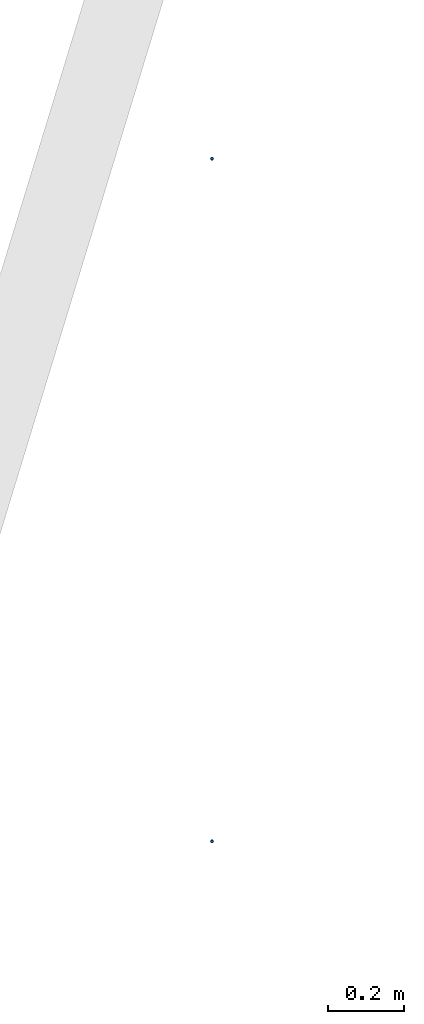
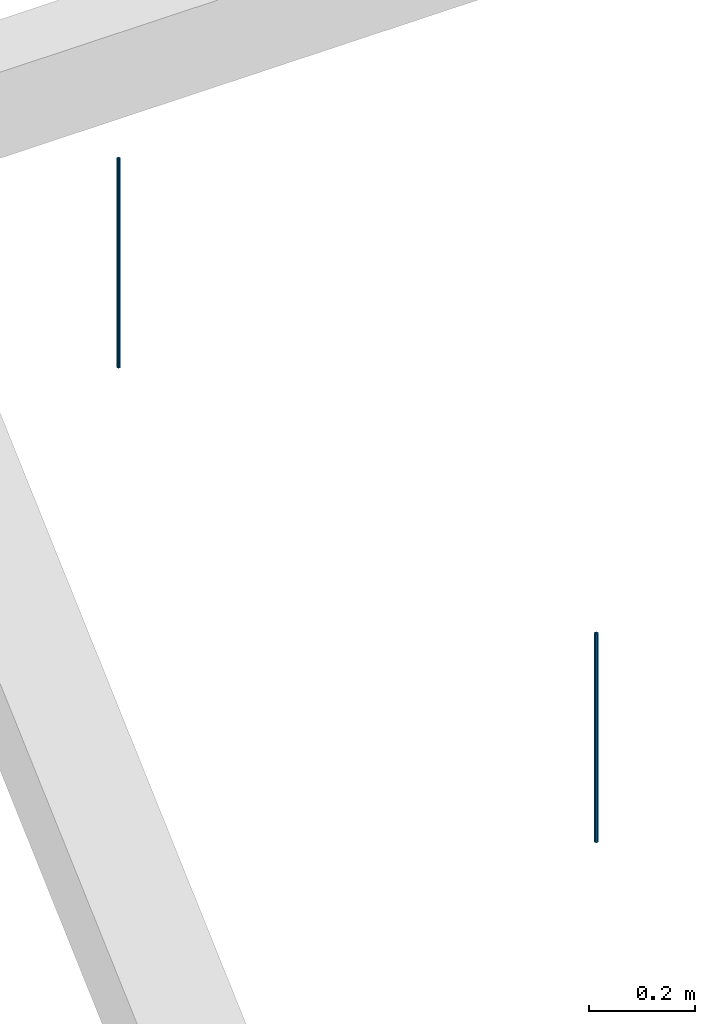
# One storey, part 8 of 23: 2 columns.
"""IFC2X3 building model written with IfcOpenShell, lengths in millimetres."""

import ifcopenshell
import ifcopenshell.guid

model = None  # the IFC model being written
_history = None  # IfcOwnerHistory: only IFC2X3 demands one
_inside = {}  # id of a spatial element -> (the spatial element, [elements in it])
_under = {}  # id of a project, library or spatial element -> (it, [spatial elements below it])
_declared = {}  # id of a project -> (the project, [libraries it declares])
_typed = {}  # id of a type object -> (the type object, [elements of that type])
_made_of = {}  # id of a material, layer set ... -> (it, [elements and type objects made of it])


def new_model(schema):
    """Start an empty IFC model of exactly this schema.

    Asked for "IFC4X3", IfcOpenShell would pick the latest addendum, in which some entities
    have other attributes; the version numbers below select the first issue.
    IFC2X3 requires an IfcOwnerHistory on every rooted entity: one is made here for all.
    """
    global model, _history
    if schema == "IFC4X3":
        model = ifcopenshell.file(schema_version=(4, 3, 0, 0))
    else:
        model = ifcopenshell.file(schema=schema)
    _inside.clear()
    _under.clear()
    _declared.clear()
    _typed.clear()
    _made_of.clear()
    _history = None
    if model.schema == "IFC2X3":
        org = make("IfcOrganization", Name="unknown")
        user = make(
            "IfcPersonAndOrganization",
            ThePerson=make("IfcPerson", FamilyName="unknown"),
            TheOrganization=org,
        )
        app = make(
            "IfcApplication",
            ApplicationDeveloper=org,
            Version="unknown",
            ApplicationFullName="unknown",
            ApplicationIdentifier="unknown",
        )
        _history = make(
            "IfcOwnerHistory",
            OwningUser=user,
            OwningApplication=app,
            ChangeAction="ADDED",
            CreationDate=0,
        )
    return model


def make(cls, **values):
    """One entity of the class cls with the attributes given. An attribute that is None is left unset."""
    return model.create_entity(
        cls, **{name: value for name, value in values.items() if value is not None}
    )


def entity(cls, *values):
    """Any entity or typed value of the class cls, its attributes in the order of the schema. None: left unset."""
    e = model.create_entity(cls)
    for i, value in enumerate(values):
        if value is not None:
            e[i] = value
    return e


def rooted(cls, **values):
    """An entity with a GlobalId (a new one), such as an element, a storey or a relation."""
    return make(cls, GlobalId=ifcopenshell.guid.new(), OwnerHistory=_history, **values)


def si_unit(unit_type, name, prefix=None):
    """IfcSIUnit, for example si_unit("LENGTHUNIT", "METRE", prefix="MILLI")."""
    return make("IfcSIUnit", UnitType=unit_type, Prefix=prefix, Name=name)


def converted_unit(unit_type, name, factor, base, dimensions=None, offset=None):
    """IfcConversionBasedUnit, such as the inch: factor (a typed value) times the base unit."""
    return make(
        "IfcConversionBasedUnit"
        if offset is None
        else "IfcConversionBasedUnitWithOffset",
        ConversionOffset=offset,
        Dimensions=None
        if dimensions is None
        else entity("IfcDimensionalExponents", *dimensions),
        UnitType=unit_type,
        Name=name,
        ConversionFactor=make(
            "IfcMeasureWithUnit", ValueComponent=factor, UnitComponent=base
        ),
    )


def derived_unit(unit_type, elements):
    """IfcDerivedUnit: a product of units, each with its exponent."""
    return make(
        "IfcDerivedUnit",
        Elements=[
            make("IfcDerivedUnitElement", Unit=unit, Exponent=power)
            for unit, power in elements
        ],
        UnitType=unit_type,
    )


def assignment(units):
    """IfcUnitAssignment: the units of a project."""
    return None if units is None else make("IfcUnitAssignment", Units=units)


def point(xyz):
    """IfcCartesianPoint."""
    return None if xyz is None else make("IfcCartesianPoint", Coordinates=xyz)


def direction(xyz):
    """IfcDirection."""
    return None if xyz is None else make("IfcDirection", DirectionRatios=xyz)


def frame(location, z_axis=None, x_axis=None):
    """IfcAxis2Placement3D, a coordinate frame: its origin and axes. An axis left out is left unset."""
    return make(
        "IfcAxis2Placement3D",
        Location=point(location),
        Axis=direction(z_axis),
        RefDirection=direction(x_axis),
    )


def origin_with_axes():
    """The frame at (0, 0, 0) with the z axis (0, 0, 1) and the x axis (1, 0, 0) written out."""
    return frame((0.0, 0.0, 0.0), z_axis=(0.0, 0.0, 1.0), x_axis=(1.0, 0.0, 0.0))


def place(relative_to, where):
    """IfcLocalPlacement: puts the frame where relative to a parent placement (None: the world)."""
    return make(
        "IfcLocalPlacement", PlacementRelTo=relative_to, RelativePlacement=where
    )


def context(
    kind, dimensions, precision=None, world=None, true_north=None, identifier=None
):
    """IfcGeometricRepresentationContext, for example the 3D "Model" context."""
    return make(
        "IfcGeometricRepresentationContext",
        ContextIdentifier=identifier,
        ContextType=kind,
        CoordinateSpaceDimension=dimensions,
        Precision=precision,
        WorldCoordinateSystem=world,
        TrueNorth=true_north,
    )


def subcontext(parent, identifier, kind, view, scale=None):
    """IfcGeometricRepresentationSubContext, for example "Body" below "Model"."""
    return make(
        "IfcGeometricRepresentationSubContext",
        ContextIdentifier=identifier,
        ContextType=kind,
        ParentContext=parent,
        TargetScale=scale,
        TargetView=view,
    )


def project(units=None, contexts=None):
    """IfcProject with its units and contexts."""
    return rooted(
        "IfcProject",
        Name="project",
        RepresentationContexts=contexts,
        UnitsInContext=assignment(units),
    )


def spatial(cls, under=None, at=None, **own):
    """A site, building, storey or space (cls), placed at a placement, below another one or the project."""
    s = rooted(cls, ObjectPlacement=at, **own)
    if under is not None:
        _under.setdefault(under.id(), (under, []))[1].append(s)
    return s


def faces_of(points, faces, orient=None, outer=None):
    """IfcFace entities. A face is a list of loops; a loop is a list of indices into points, from 0.

    orient and outer hold one flag for each loop. By default every Orientation is true, the
    first loop of a face is its IfcFaceOuterBound and the others are IfcFaceBound.
    """
    made = []
    for i, loops in enumerate(faces):
        bounds = []
        for j, loop in enumerate(loops):
            is_outer = j == 0 if outer is None else outer[i][j]
            bounds.append(
                make(
                    "IfcFaceOuterBound" if is_outer else "IfcFaceBound",
                    Bound=make("IfcPolyLoop", Polygon=[points[k] for k in loop]),
                    Orientation=True if orient is None else orient[i][j],
                )
            )
        made.append(make("IfcFace", Bounds=bounds))
    return made


def faceted_brep(points, faces, orient=None, outer=None, voids=None):
    """IfcFacetedBrep: a solid bounded by flat faces; with voids (closed shells), ...WithVoids."""
    shared = [point(p) for p in points]
    hull = make("IfcClosedShell", CfsFaces=faces_of(shared, faces, orient, outer))
    if voids is None:
        return make("IfcFacetedBrep", Outer=hull)
    return make(
        "IfcFacetedBrepWithVoids",
        Outer=hull,
        Voids=[
            make(cls, CfsFaces=faces_of(shared, fs, o, b)) for cls, fs, o, b in voids
        ],
    )


def shape(context_of_items, identifier, shape_type, items):
    """IfcShapeRepresentation: the items that make up one representation, for example the "Body"."""
    return make(
        "IfcShapeRepresentation",
        ContextOfItems=context_of_items,
        RepresentationIdentifier=identifier,
        RepresentationType=shape_type,
        Items=items,
    )


def material(Name=None, Category=None):
    """IfcMaterial."""
    return make("IfcMaterial", Name=Name, Category=Category)


def made_of(thing, what):
    """Note that an element or type object is made of a material, layer set ...; save() writes the relation."""
    if what is not None:
        _made_of.setdefault(what.id(), (what, []))[1].append(thing)
    return thing


def type_object(cls, material=None, **own):
    """A type object (cls), such as IfcWallType, which elements share."""
    return made_of(rooted(cls, **own), material)


def element(
    cls,
    number,
    at=None,
    inside=None,
    cuts=None,
    type_object=None,
    material=None,
    context=None,
    identifier="Body",
    shape_type=None,
    held_by="IfcProductDefinitionShape",
    body=None,
    shapes=None,
    **own,
):
    """One element of the class cls, such as IfcWall. Its Tag is "e" and its number.

    at: its placement. inside: the storey or other place that contains it. cuts: it is an
    opening in that element (IfcRelVoidsElement). A single representation is given by context,
    identifier, shape_type and body (its items); several are given by shapes. held_by: the class
    of the entity that holds the representations. save() writes the other relations.
    """
    e = rooted(cls, Tag="e%d" % number, ObjectPlacement=at, **own)
    if body is not None:
        shapes = [shape(context, identifier, shape_type, body)]
    if shapes is not None:
        e.Representation = make(held_by, Representations=shapes)
    if inside is not None:
        _inside.setdefault(inside.id(), (inside, []))[1].append(e)
    if cuts is not None:
        rooted(
            "IfcRelVoidsElement", RelatingBuildingElement=cuts, RelatedOpeningElement=e
        )
    if type_object is not None:
        _typed.setdefault(type_object.id(), (type_object, []))[1].append(e)
    return made_of(e, material)


def aggregate(whole, parts):
    """IfcRelAggregates: a whole, such as a stair, and the parts it consists of."""
    return rooted("IfcRelAggregates", RelatingObject=whole, RelatedObjects=parts)


def save(model, path):
    """Write the relations noted so far, then the file.

    IfcRelAggregates (storeys below a building ...), IfcRelContainedInSpatialStructure (elements
    in a storey), IfcRelDefinesByType, IfcRelAssociatesMaterial and IfcRelDeclares: one each for
    every whole, place, type object, material and project.
    """
    for whole, parts in _under.values():
        aggregate(whole, parts)
    for where, things in _inside.values():
        rooted(
            "IfcRelContainedInSpatialStructure",
            RelatedElements=things,
            RelatingStructure=where,
        )
    for kind, things in _typed.values():
        rooted("IfcRelDefinesByType", RelatedObjects=things, RelatingType=kind)
    for what, things in _made_of.values():
        rooted("IfcRelAssociatesMaterial", RelatedObjects=things, RelatingMaterial=what)
    for by, libraries in _declared.values():
        rooted("IfcRelDeclares", RelatingContext=by, RelatedDefinitions=libraries)
    model.write(path)


model = new_model("IFC2X3")

# Units and contexts
model_context = context("Model", 3, precision=0.01, world=frame((0.0, 4.29681676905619e-09, 0.0)), true_north=direction((4.01073788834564e-13, 1.0)))
plan_context = context("Plan", 3, precision=0.01, world=frame((0.0, 4.29681676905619e-09, 0.0)), true_north=direction((4.01073788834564e-13, 1.0)))
body_context = subcontext(model_context, "Body", "Model", "MODEL_VIEW")
ifc_project = project(units=[converted_unit("PLANEANGLEUNIT", "DEGREE", entity("IfcPositiveLengthMeasure", 0.0174532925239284), si_unit("PLANEANGLEUNIT", "RADIAN"), dimensions=[0, 0, 0, 0, 0, 0, 0]), si_unit("AREAUNIT", "SQUARE_METRE"), si_unit("LENGTHUNIT", "METRE", prefix="MILLI"), si_unit("MASSUNIT", "GRAM", prefix="KILO"), si_unit("POWERUNIT", "WATT"), si_unit("PRESSUREUNIT", "PASCAL", prefix="KILO"), si_unit("FORCEUNIT", "NEWTON", prefix="KILO"), si_unit("ELECTRICVOLTAGEUNIT", "VOLT"), si_unit("ELECTRICCURRENTUNIT", "AMPERE"), si_unit("THERMODYNAMICTEMPERATUREUNIT", "DEGREE_CELSIUS"), si_unit("TIMEUNIT", "SECOND"), si_unit("VOLUMEUNIT", "CUBIC_METRE"), derived_unit("LINEARVELOCITYUNIT", [(si_unit("LENGTHUNIT", "METRE"), 1), (si_unit("TIMEUNIT", "SECOND"), -1)]), derived_unit("VOLUMETRICFLOWRATEUNIT", [(si_unit("VOLUMEUNIT", "CUBIC_METRE"), 1), (si_unit("TIMEUNIT", "SECOND"), -1)]), derived_unit("THERMALTRANSMITTANCEUNIT", [(si_unit("POWERUNIT", "WATT"), 1), (si_unit("THERMODYNAMICTEMPERATUREUNIT", "KELVIN"), -1), (si_unit("AREAUNIT", "SQUARE_METRE"), -1)]), derived_unit("SOUNDPRESSUREUNIT", [(si_unit("PRESSUREUNIT", "PASCAL"), 1)])], contexts=[model_context, plan_context])

# Site, building, storey
site_placement = place(None, origin_with_axes())
site = spatial("IfcSite", under=ifc_project, at=site_placement, Name="ENGM", CompositionType="ELEMENT")
building_placement = place(site_placement, origin_with_axes())
building = spatial("IfcBuilding", under=site, at=building_placement, Name="TI", CompositionType="ELEMENT")
storey_placement = place(building_placement, frame((0.0, 0.0, 213700.0), z_axis=(0.0, 0.0, 1.0), x_axis=(1.0, 0.0, 0.0)))
storey = spatial("IfcBuildingStorey", under=building, at=storey_placement, Name="Nivå G - 2,0m", CompositionType="ELEMENT", Elevation=213700.0)

# Columns
ifc_material = material(Name="_NSW Stål")
column_type = type_object("IfcColumnType", Name="A241 - GRID-oppheng:A241 - GRID-oppheng - ø10 mm", PredefinedType="COLUMN", material=ifc_material)
column_1_placement = place(storey_placement, frame((585000.000000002, 577100.0, -213700.0), z_axis=(0.0, 0.0, 1.0), x_axis=(1.0, 0.0, 0.0)))
element("IfcColumn", 1, at=column_1_placement, inside=storey, type_object=column_type, Name="A241 - GRID-oppheng:A241 - GRID-oppheng - ø10 mm", ObjectType="A241 - GRID-oppheng:A241 - GRID-oppheng - ø10 mm", context=body_context, shape_type="Brep", body=[
    faceted_brep([(2.00000000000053, 2.95521980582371e-15, 214400.0), (1.96961550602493, -0.347296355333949, 214400.0), (1.96961550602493, -0.347296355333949, 213920.0), (2.00000000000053, 2.95521980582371e-15, 213920.0), (1.87938524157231, -0.684040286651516, 214400.0), (1.87938524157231, -0.684040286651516, 213920.0), (1.73205080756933, -1.00000000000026, 214400.0), (1.73205080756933, -1.00000000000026, 213920.0), (1.53208888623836, -1.28557521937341, 214400.0), (1.53208888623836, -1.28557521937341, 213920.0), (1.28557521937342, -1.53208888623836, 214400.0), (1.28557521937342, -1.53208888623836, 213920.0), (1.00000000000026, -1.73205080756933, 214400.0), (1.00000000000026, -1.73205080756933, 213920.0), (0.684040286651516, -1.87938524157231, 214400.0), (0.684040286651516, -1.87938524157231, 213920.0), (0.347296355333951, -1.96961550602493, 214400.0), (0.347296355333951, -1.96961550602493, 213920.0), (-2.38954857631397e-16, -2.00000000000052, 214400.0), (-2.38954857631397e-16, -2.00000000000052, 213920.0), (-0.347296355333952, -1.96961550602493, 214400.0), (-0.347296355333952, -1.96961550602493, 213920.0), (-0.684040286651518, -1.87938524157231, 214400.0), (-0.684040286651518, -1.87938524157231, 213920.0), (-1.00000000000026, -1.73205080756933, 214400.0), (-1.00000000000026, -1.73205080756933, 213920.0), (-1.28557521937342, -1.53208888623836, 214400.0), (-1.28557521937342, -1.53208888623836, 213920.0), (-1.53208888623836, -1.28557521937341, 214400.0), (-1.53208888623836, -1.28557521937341, 213920.0), (-1.73205080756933, -1.00000000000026, 214400.0), (-1.73205080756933, -1.00000000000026, 213920.0), (-1.87938524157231, -0.684040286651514, 214400.0), (-1.87938524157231, -0.684040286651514, 213920.0), (-1.96961550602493, -0.347296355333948, 214400.0), (-1.96961550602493, -0.347296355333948, 213920.0), (-2.00000000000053, 3.20014916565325e-15, 214400.0), (-2.00000000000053, 3.20014916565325e-15, 213920.0), (-1.96961550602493, 0.347296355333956, 214400.0), (-1.96961550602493, 0.347296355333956, 213920.0), (-1.87938524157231, 0.68404028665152, 214400.0), (-1.87938524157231, 0.68404028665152, 213920.0), (-1.73205080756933, 1.00000000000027, 214400.0), (-1.73205080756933, 1.00000000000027, 213920.0), (-1.53208888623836, 1.28557521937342, 214400.0), (-1.53208888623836, 1.28557521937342, 213920.0), (-1.28557521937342, 1.53208888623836, 214400.0), (-1.28557521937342, 1.53208888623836, 213920.0), (-1.00000000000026, 1.73205080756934, 214400.0), (-1.00000000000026, 1.73205080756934, 213920.0), (-0.684040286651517, 1.87938524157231, 214400.0), (-0.684040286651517, 1.87938524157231, 213920.0), (-0.347296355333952, 1.96961550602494, 214400.0), (-0.347296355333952, 1.96961550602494, 213920.0), (2.50903862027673e-16, 2.00000000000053, 214400.0), (2.50903862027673e-16, 2.00000000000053, 213920.0), (0.347296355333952, 1.96961550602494, 214400.0), (0.347296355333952, 1.96961550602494, 213920.0), (0.684040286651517, 1.87938524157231, 214400.0), (0.684040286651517, 1.87938524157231, 213920.0), (1.00000000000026, 1.73205080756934, 214400.0), (1.00000000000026, 1.73205080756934, 213920.0), (1.28557521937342, 1.53208888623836, 214400.0), (1.28557521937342, 1.53208888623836, 213920.0), (1.53208888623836, 1.28557521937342, 214400.0), (1.53208888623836, 1.28557521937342, 213920.0), (1.73205080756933, 1.00000000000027, 214400.0), (1.73205080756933, 1.00000000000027, 213920.0), (1.87938524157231, 0.68404028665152, 214400.0), (1.87938524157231, 0.68404028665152, 213920.0), (1.96961550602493, 0.347296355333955, 214400.0), (1.96961550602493, 0.347296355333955, 213920.0), (3.93923101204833, -0.694592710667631, 214400.0), (3.99999999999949, 2.95521980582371e-15, 214400.0), (3.99999999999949, 2.95521980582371e-15, 213920.0), (3.93923101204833, -0.694592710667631, 213920.0), (3.93923101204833, 0.694592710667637, 214400.0), (3.93923101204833, 0.694592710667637, 213920.0), (3.75877048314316, 1.3680805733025, 214400.0), (3.75877048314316, 1.3680805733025, 213920.0), (3.46410161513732, 1.99999999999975, 214400.0), (3.46410161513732, 1.99999999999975, 213920.0), (3.06417777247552, 2.57115043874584, 214400.0), (3.06417777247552, 2.57115043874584, 213920.0), (2.57115043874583, 3.06417777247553, 214400.0), (2.57115043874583, 3.06417777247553, 213920.0), (1.99999999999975, 3.46410161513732, 214400.0), (1.99999999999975, 3.46410161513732, 213920.0), (1.3680805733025, 3.75877048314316, 214400.0), (1.3680805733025, 3.75877048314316, 213920.0), (0.694592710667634, 3.93923101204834, 214400.0), (0.694592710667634, 3.93923101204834, 213920.0), (3.73368541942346e-16, 3.9999999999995, 214400.0), (3.73368541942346e-16, 3.9999999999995, 213920.0), (-0.694592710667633, 3.93923101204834, 214400.0), (-0.694592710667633, 3.93923101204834, 213920.0), (-1.3680805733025, 3.75877048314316, 214400.0), (-1.3680805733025, 3.75877048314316, 213920.0), (-1.99999999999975, 3.46410161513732, 214400.0), (-1.99999999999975, 3.46410161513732, 213920.0), (-2.57115043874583, 3.06417777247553, 214400.0), (-2.57115043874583, 3.06417777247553, 213920.0), (-3.06417777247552, 2.57115043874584, 214400.0), (-3.06417777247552, 2.57115043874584, 213920.0), (-3.46410161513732, 1.99999999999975, 214400.0), (-3.46410161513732, 1.99999999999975, 213920.0), (-3.75877048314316, 1.36808057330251, 214400.0), (-3.75877048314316, 1.36808057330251, 213920.0), (-3.93923101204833, 0.694592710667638, 214400.0), (-3.93923101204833, 0.694592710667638, 213920.0), (-3.99999999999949, 3.44507852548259e-15, 214400.0), (-3.99999999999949, 3.44507852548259e-15, 213920.0), (-3.93923101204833, -0.694592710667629, 214400.0), (-3.93923101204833, -0.694592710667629, 213920.0), (-3.75877048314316, -1.3680805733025, 214400.0), (-3.75877048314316, -1.3680805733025, 213920.0), (-3.46410161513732, -1.99999999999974, 214400.0), (-3.46410161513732, -1.99999999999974, 213920.0), (-3.06417777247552, -2.57115043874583, 214400.0), (-3.06417777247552, -2.57115043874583, 213920.0), (-2.57115043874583, -3.06417777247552, 214400.0), (-2.57115043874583, -3.06417777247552, 213920.0), (-1.99999999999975, -3.46410161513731, 214400.0), (-1.99999999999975, -3.46410161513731, 213920.0), (-1.3680805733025, -3.75877048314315, 214400.0), (-1.3680805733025, -3.75877048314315, 213920.0), (-0.694592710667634, -3.93923101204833, 214400.0), (-0.694592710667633, -3.93923101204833, 213920.0), (-6.06348897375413e-16, -3.99999999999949, 214400.0), (-6.06348897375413e-16, -3.99999999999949, 213920.0), (0.694592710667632, -3.93923101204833, 214400.0), (0.694592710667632, -3.93923101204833, 213920.0), (1.3680805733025, -3.75877048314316, 214400.0), (1.3680805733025, -3.75877048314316, 213920.0), (1.99999999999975, -3.46410161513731, 214400.0), (1.99999999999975, -3.46410161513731, 213920.0), (2.57115043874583, -3.06417777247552, 214400.0), (2.57115043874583, -3.06417777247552, 213920.0), (3.06417777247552, -2.57115043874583, 214400.0), (3.06417777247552, -2.57115043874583, 213920.0), (3.46410161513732, -1.99999999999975, 214400.0), (3.46410161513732, -1.99999999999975, 213920.0), (3.75877048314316, -1.3680805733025, 214400.0), (3.75877048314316, -1.3680805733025, 213920.0)], [[[0, 1, 2, 3]], [[1, 4, 5, 2]], [[4, 6, 7, 5]], [[6, 8, 9, 7]], [[8, 10, 11, 9]], [[10, 12, 13, 11]], [[12, 14, 15, 13]], [[14, 16, 17, 15]], [[16, 18, 19, 17]], [[18, 20, 21, 19]], [[20, 22, 23, 21]], [[22, 24, 25, 23]], [[24, 26, 27, 25]], [[26, 28, 29, 27]], [[28, 30, 31, 29]], [[30, 32, 33, 31]], [[32, 34, 35, 33]], [[34, 36, 37, 35]], [[36, 38, 39, 37]], [[38, 40, 41, 39]], [[40, 42, 43, 41]], [[42, 44, 45, 43]], [[44, 46, 47, 45]], [[46, 48, 49, 47]], [[48, 50, 51, 49]], [[50, 52, 53, 51]], [[52, 54, 55, 53]], [[54, 56, 57, 55]], [[56, 58, 59, 57]], [[58, 60, 61, 59]], [[60, 62, 63, 61]], [[62, 64, 65, 63]], [[64, 66, 67, 65]], [[66, 68, 69, 67]], [[68, 70, 71, 69]], [[70, 0, 3, 71]], [[72, 73, 74, 75]], [[73, 76, 77, 74]], [[76, 78, 79, 77]], [[78, 80, 81, 79]], [[80, 82, 83, 81]], [[82, 84, 85, 83]], [[84, 86, 87, 85]], [[86, 88, 89, 87]], [[88, 90, 91, 89]], [[90, 92, 93, 91]], [[92, 94, 95, 93]], [[94, 96, 97, 95]], [[96, 98, 99, 97]], [[98, 100, 101, 99]], [[100, 102, 103, 101]], [[102, 104, 105, 103]], [[104, 106, 107, 105]], [[106, 108, 109, 107]], [[108, 110, 111, 109]], [[110, 112, 113, 111]], [[112, 114, 115, 113]], [[114, 116, 117, 115]], [[116, 118, 119, 117]], [[118, 120, 121, 119]], [[120, 122, 123, 121]], [[122, 124, 125, 123]], [[124, 126, 127, 125]], [[126, 128, 129, 127]], [[128, 130, 131, 129]], [[130, 132, 133, 131]], [[132, 134, 135, 133]], [[134, 136, 137, 135]], [[136, 138, 139, 137]], [[138, 140, 141, 139]], [[140, 142, 143, 141]], [[142, 72, 75, 143]], [[75, 74, 77, 79, 81, 83, 85, 87, 89, 91, 93, 95, 97, 99, 101, 103, 105, 107, 109, 111, 113, 115, 117, 119, 121, 123, 125, 127, 129, 131, 133, 135, 137, 139, 141, 143], [3, 2, 5, 7, 9, 11, 13, 15, 17, 19, 21, 23, 25, 27, 29, 31, 33, 35, 37, 39, 41, 43, 45, 47, 49, 51, 53, 55, 57, 59, 61, 63, 65, 67, 69, 71]], [[142, 140, 138, 136, 134, 132, 130, 128, 126, 124, 122, 120, 118, 116, 114, 112, 110, 108, 106, 104, 102, 100, 98, 96, 94, 92, 90, 88, 86, 84, 82, 80, 78, 76, 73, 72], [70, 68, 66, 64, 62, 60, 58, 56, 54, 52, 50, 48, 46, 44, 42, 40, 38, 36, 34, 32, 30, 28, 26, 24, 22, 20, 18, 16, 14, 12, 10, 8, 6, 4, 1, 0]]], orient=[[False], [False], [False], [False], [False], [False], [False], [False], [False], [False], [False], [False], [False], [False], [False], [False], [False], [False], [False], [False], [False], [False], [False], [False], [False], [False], [False], [False], [False], [False], [False], [False], [False], [False], [False], [False], [False], [False], [False], [False], [False], [False], [False], [False], [False], [False], [False], [False], [False], [False], [False], [False], [False], [False], [False], [False], [False], [False], [False], [False], [False], [False], [False], [False], [False], [False], [False], [False], [False], [False], [False], [False], [False, False], [False, False]]),
])
column_2_placement = place(storey_placement, frame((585000.000000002, 575300.0, -213700.0), z_axis=(0.0, 0.0, 1.0), x_axis=(1.0, 0.0, 0.0)))
element("IfcColumn", 2, at=column_2_placement, inside=storey, type_object=column_type, Name="A241 - GRID-oppheng:A241 - GRID-oppheng - ø10 mm", ObjectType="A241 - GRID-oppheng:A241 - GRID-oppheng - ø10 mm", context=body_context, shape_type="Brep", body=[
    faceted_brep([(2.00000000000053, 2.95521980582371e-15, 214400.0), (1.96961550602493, -0.347296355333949, 214400.0), (1.96961550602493, -0.347296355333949, 213920.0), (2.00000000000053, 2.95521980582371e-15, 213920.0), (1.87938524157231, -0.684040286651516, 214400.0), (1.87938524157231, -0.684040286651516, 213920.0), (1.73205080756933, -1.00000000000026, 214400.0), (1.73205080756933, -1.00000000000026, 213920.0), (1.53208888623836, -1.28557521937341, 214400.0), (1.53208888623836, -1.28557521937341, 213920.0), (1.28557521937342, -1.53208888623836, 214400.0), (1.28557521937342, -1.53208888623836, 213920.0), (1.00000000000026, -1.73205080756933, 214400.0), (1.00000000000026, -1.73205080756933, 213920.0), (0.684040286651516, -1.87938524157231, 214400.0), (0.684040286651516, -1.87938524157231, 213920.0), (0.347296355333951, -1.96961550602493, 214400.0), (0.347296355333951, -1.96961550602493, 213920.0), (-2.38954857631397e-16, -2.00000000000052, 214400.0), (-2.38954857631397e-16, -2.00000000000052, 213920.0), (-0.347296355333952, -1.96961550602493, 214400.0), (-0.347296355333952, -1.96961550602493, 213920.0), (-0.684040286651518, -1.87938524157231, 214400.0), (-0.684040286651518, -1.87938524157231, 213920.0), (-1.00000000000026, -1.73205080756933, 214400.0), (-1.00000000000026, -1.73205080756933, 213920.0), (-1.28557521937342, -1.53208888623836, 214400.0), (-1.28557521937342, -1.53208888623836, 213920.0), (-1.53208888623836, -1.28557521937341, 214400.0), (-1.53208888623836, -1.28557521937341, 213920.0), (-1.73205080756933, -1.00000000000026, 214400.0), (-1.73205080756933, -1.00000000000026, 213920.0), (-1.87938524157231, -0.684040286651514, 214400.0), (-1.87938524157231, -0.684040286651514, 213920.0), (-1.96961550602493, -0.347296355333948, 214400.0), (-1.96961550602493, -0.347296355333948, 213920.0), (-2.00000000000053, 3.20014916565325e-15, 214400.0), (-2.00000000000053, 3.20014916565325e-15, 213920.0), (-1.96961550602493, 0.347296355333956, 214400.0), (-1.96961550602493, 0.347296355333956, 213920.0), (-1.87938524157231, 0.68404028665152, 214400.0), (-1.87938524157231, 0.68404028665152, 213920.0), (-1.73205080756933, 1.00000000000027, 214400.0), (-1.73205080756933, 1.00000000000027, 213920.0), (-1.53208888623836, 1.28557521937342, 214400.0), (-1.53208888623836, 1.28557521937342, 213920.0), (-1.28557521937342, 1.53208888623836, 214400.0), (-1.28557521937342, 1.53208888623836, 213920.0), (-1.00000000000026, 1.73205080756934, 214400.0), (-1.00000000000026, 1.73205080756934, 213920.0), (-0.684040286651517, 1.87938524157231, 214400.0), (-0.684040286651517, 1.87938524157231, 213920.0), (-0.347296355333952, 1.96961550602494, 214400.0), (-0.347296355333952, 1.96961550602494, 213920.0), (2.50903862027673e-16, 2.00000000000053, 214400.0), (2.50903862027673e-16, 2.00000000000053, 213920.0), (0.347296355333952, 1.96961550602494, 214400.0), (0.347296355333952, 1.96961550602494, 213920.0), (0.684040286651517, 1.87938524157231, 214400.0), (0.684040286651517, 1.87938524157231, 213920.0), (1.00000000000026, 1.73205080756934, 214400.0), (1.00000000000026, 1.73205080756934, 213920.0), (1.28557521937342, 1.53208888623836, 214400.0), (1.28557521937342, 1.53208888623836, 213920.0), (1.53208888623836, 1.28557521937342, 214400.0), (1.53208888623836, 1.28557521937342, 213920.0), (1.73205080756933, 1.00000000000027, 214400.0), (1.73205080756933, 1.00000000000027, 213920.0), (1.87938524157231, 0.68404028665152, 214400.0), (1.87938524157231, 0.68404028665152, 213920.0), (1.96961550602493, 0.347296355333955, 214400.0), (1.96961550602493, 0.347296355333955, 213920.0), (3.93923101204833, -0.694592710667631, 214400.0), (3.99999999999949, 2.95521980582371e-15, 214400.0), (3.99999999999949, 2.95521980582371e-15, 213920.0), (3.93923101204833, -0.694592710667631, 213920.0), (3.93923101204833, 0.694592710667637, 214400.0), (3.93923101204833, 0.694592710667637, 213920.0), (3.75877048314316, 1.3680805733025, 214400.0), (3.75877048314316, 1.3680805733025, 213920.0), (3.46410161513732, 1.99999999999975, 214400.0), (3.46410161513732, 1.99999999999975, 213920.0), (3.06417777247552, 2.57115043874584, 214400.0), (3.06417777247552, 2.57115043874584, 213920.0), (2.57115043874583, 3.06417777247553, 214400.0), (2.57115043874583, 3.06417777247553, 213920.0), (1.99999999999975, 3.46410161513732, 214400.0), (1.99999999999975, 3.46410161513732, 213920.0), (1.3680805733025, 3.75877048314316, 214400.0), (1.3680805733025, 3.75877048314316, 213920.0), (0.694592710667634, 3.93923101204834, 214400.0), (0.694592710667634, 3.93923101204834, 213920.0), (3.73368541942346e-16, 3.9999999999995, 214400.0), (3.73368541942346e-16, 3.9999999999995, 213920.0), (-0.694592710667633, 3.93923101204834, 214400.0), (-0.694592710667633, 3.93923101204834, 213920.0), (-1.3680805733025, 3.75877048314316, 214400.0), (-1.3680805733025, 3.75877048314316, 213920.0), (-1.99999999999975, 3.46410161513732, 214400.0), (-1.99999999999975, 3.46410161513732, 213920.0), (-2.57115043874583, 3.06417777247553, 214400.0), (-2.57115043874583, 3.06417777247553, 213920.0), (-3.06417777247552, 2.57115043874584, 214400.0), (-3.06417777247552, 2.57115043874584, 213920.0), (-3.46410161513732, 1.99999999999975, 214400.0), (-3.46410161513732, 1.99999999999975, 213920.0), (-3.75877048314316, 1.36808057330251, 214400.0), (-3.75877048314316, 1.36808057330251, 213920.0), (-3.93923101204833, 0.694592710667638, 214400.0), (-3.93923101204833, 0.694592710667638, 213920.0), (-3.99999999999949, 3.44507852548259e-15, 214400.0), (-3.99999999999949, 3.44507852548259e-15, 213920.0), (-3.93923101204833, -0.694592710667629, 214400.0), (-3.93923101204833, -0.694592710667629, 213920.0), (-3.75877048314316, -1.3680805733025, 214400.0), (-3.75877048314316, -1.3680805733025, 213920.0), (-3.46410161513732, -1.99999999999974, 214400.0), (-3.46410161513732, -1.99999999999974, 213920.0), (-3.06417777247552, -2.57115043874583, 214400.0), (-3.06417777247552, -2.57115043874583, 213920.0), (-2.57115043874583, -3.06417777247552, 214400.0), (-2.57115043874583, -3.06417777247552, 213920.0), (-1.99999999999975, -3.46410161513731, 214400.0), (-1.99999999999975, -3.46410161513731, 213920.0), (-1.3680805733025, -3.75877048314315, 214400.0), (-1.3680805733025, -3.75877048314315, 213920.0), (-0.694592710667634, -3.93923101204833, 214400.0), (-0.694592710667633, -3.93923101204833, 213920.0), (-6.06348897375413e-16, -3.99999999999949, 214400.0), (-6.06348897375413e-16, -3.99999999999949, 213920.0), (0.694592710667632, -3.93923101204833, 214400.0), (0.694592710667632, -3.93923101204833, 213920.0), (1.3680805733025, -3.75877048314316, 214400.0), (1.3680805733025, -3.75877048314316, 213920.0), (1.99999999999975, -3.46410161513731, 214400.0), (1.99999999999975, -3.46410161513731, 213920.0), (2.57115043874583, -3.06417777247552, 214400.0), (2.57115043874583, -3.06417777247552, 213920.0), (3.06417777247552, -2.57115043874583, 214400.0), (3.06417777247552, -2.57115043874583, 213920.0), (3.46410161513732, -1.99999999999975, 214400.0), (3.46410161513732, -1.99999999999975, 213920.0), (3.75877048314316, -1.3680805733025, 214400.0), (3.75877048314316, -1.3680805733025, 213920.0)], [[[0, 1, 2, 3]], [[1, 4, 5, 2]], [[4, 6, 7, 5]], [[6, 8, 9, 7]], [[8, 10, 11, 9]], [[10, 12, 13, 11]], [[12, 14, 15, 13]], [[14, 16, 17, 15]], [[16, 18, 19, 17]], [[18, 20, 21, 19]], [[20, 22, 23, 21]], [[22, 24, 25, 23]], [[24, 26, 27, 25]], [[26, 28, 29, 27]], [[28, 30, 31, 29]], [[30, 32, 33, 31]], [[32, 34, 35, 33]], [[34, 36, 37, 35]], [[36, 38, 39, 37]], [[38, 40, 41, 39]], [[40, 42, 43, 41]], [[42, 44, 45, 43]], [[44, 46, 47, 45]], [[46, 48, 49, 47]], [[48, 50, 51, 49]], [[50, 52, 53, 51]], [[52, 54, 55, 53]], [[54, 56, 57, 55]], [[56, 58, 59, 57]], [[58, 60, 61, 59]], [[60, 62, 63, 61]], [[62, 64, 65, 63]], [[64, 66, 67, 65]], [[66, 68, 69, 67]], [[68, 70, 71, 69]], [[70, 0, 3, 71]], [[72, 73, 74, 75]], [[73, 76, 77, 74]], [[76, 78, 79, 77]], [[78, 80, 81, 79]], [[80, 82, 83, 81]], [[82, 84, 85, 83]], [[84, 86, 87, 85]], [[86, 88, 89, 87]], [[88, 90, 91, 89]], [[90, 92, 93, 91]], [[92, 94, 95, 93]], [[94, 96, 97, 95]], [[96, 98, 99, 97]], [[98, 100, 101, 99]], [[100, 102, 103, 101]], [[102, 104, 105, 103]], [[104, 106, 107, 105]], [[106, 108, 109, 107]], [[108, 110, 111, 109]], [[110, 112, 113, 111]], [[112, 114, 115, 113]], [[114, 116, 117, 115]], [[116, 118, 119, 117]], [[118, 120, 121, 119]], [[120, 122, 123, 121]], [[122, 124, 125, 123]], [[124, 126, 127, 125]], [[126, 128, 129, 127]], [[128, 130, 131, 129]], [[130, 132, 133, 131]], [[132, 134, 135, 133]], [[134, 136, 137, 135]], [[136, 138, 139, 137]], [[138, 140, 141, 139]], [[140, 142, 143, 141]], [[142, 72, 75, 143]], [[75, 74, 77, 79, 81, 83, 85, 87, 89, 91, 93, 95, 97, 99, 101, 103, 105, 107, 109, 111, 113, 115, 117, 119, 121, 123, 125, 127, 129, 131, 133, 135, 137, 139, 141, 143], [3, 2, 5, 7, 9, 11, 13, 15, 17, 19, 21, 23, 25, 27, 29, 31, 33, 35, 37, 39, 41, 43, 45, 47, 49, 51, 53, 55, 57, 59, 61, 63, 65, 67, 69, 71]], [[142, 140, 138, 136, 134, 132, 130, 128, 126, 124, 122, 120, 118, 116, 114, 112, 110, 108, 106, 104, 102, 100, 98, 96, 94, 92, 90, 88, 86, 84, 82, 80, 78, 76, 73, 72], [70, 68, 66, 64, 62, 60, 58, 56, 54, 52, 50, 48, 46, 44, 42, 40, 38, 36, 34, 32, 30, 28, 26, 24, 22, 20, 18, 16, 14, 12, 10, 8, 6, 4, 1, 0]]], orient=[[False], [False], [False], [False], [False], [False], [False], [False], [False], [False], [False], [False], [False], [False], [False], [False], [False], [False], [False], [False], [False], [False], [False], [False], [False], [False], [False], [False], [False], [False], [False], [False], [False], [False], [False], [False], [False], [False], [False], [False], [False], [False], [False], [False], [False], [False], [False], [False], [False], [False], [False], [False], [False], [False], [False], [False], [False], [False], [False], [False], [False], [False], [False], [False], [False], [False], [False], [False], [False], [False], [False], [False], [False, False], [False, False]]),
])

save(model, "model.ifc")
